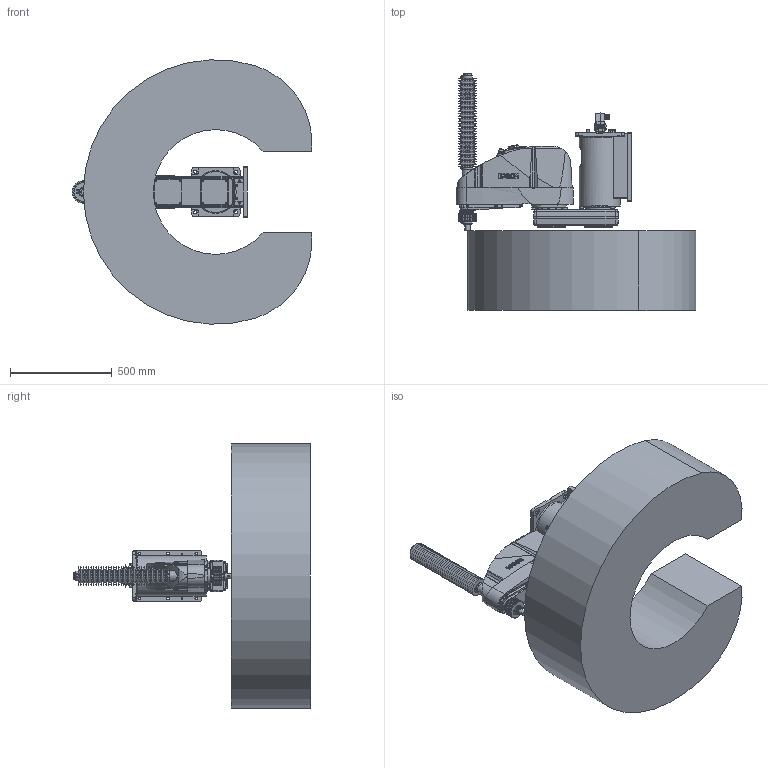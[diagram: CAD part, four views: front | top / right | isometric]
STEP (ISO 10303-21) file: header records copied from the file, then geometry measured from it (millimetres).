
FILE_DESCRIPTION( ( 'STEP AP214' ), '1' );
FILE_NAME( 'C:/Users/9607552/Desktop/GX10-B654CW_langle.stp', '2023-08-01T09:09:37', ( '' ), ( '' ), ' ', 'PARTsolutions', ' ' );
FILE_SCHEMA( ( 'AUTOMOTIVE_DESIGN { 1 0 10303 214 1 1 1 1 }' ) );
Length unit declared in the file: millimetre
Products named in the file (7): GX10-B654CWA-W; _Base cw; _Angle-B; _J1 Arm GX10-250 r/w; _J2 Arm GX10-c; _J3 Arm GX10-c (4); _GX10_20B-27_4
Assembly tree (6 placements, depth 2):
  GX10-B654CWA-W
    _Base cw
    _Angle-B
    _J1 Arm GX10-250 r/w
    _J2 Arm GX10-c
    _J3 Arm GX10-c (4)
    _GX10_20B-27_4
Bounding box: 1177.46 x 1164 x 1298.81 mm (x, y, z)
Volume: 365642700.8 mm3; surface area: 5923337.2 mm2
Topology: 6 solids, 6 shells, 2584 faces, 6345 edges, 4109 vertices
Faces by surface type: plane 1314, cylinder 765, cone 400, torus 67, bspline 37, sphere 1
Full cylindrical faces by diameter (mm): 1.18 x55, 2.5 x2, 3 x32, 3.242 x10, 3.3 x9, 4 x2, 4.2 x2, 4.8 x4, 5.1 x4, 5.34 x4, 5.5 x12, 6 x4, 6.2 x2, 6.647 x2, 6.8 x2, 7 x19, 7.5 x1, 7.59 x4, 8 x4, 8.5 x2, 9 x4, 10 x32, 10.5 x3, 11 x14, 12 x7, 12.25 x1, 13 x8, 14 x20, 14.25 x1, 16 x7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
Entity records: 96864 total; most frequent: CARTESIAN_POINT 17764, DIRECTION 12163, ORIENTED_EDGE 11024, EDGE_CURVE 5512, AXIS2_PLACEMENT_3D 4653, VERTEX_POINT 4005, EDGE_LOOP 3694, FACE_OUTER_BOUND 2950
